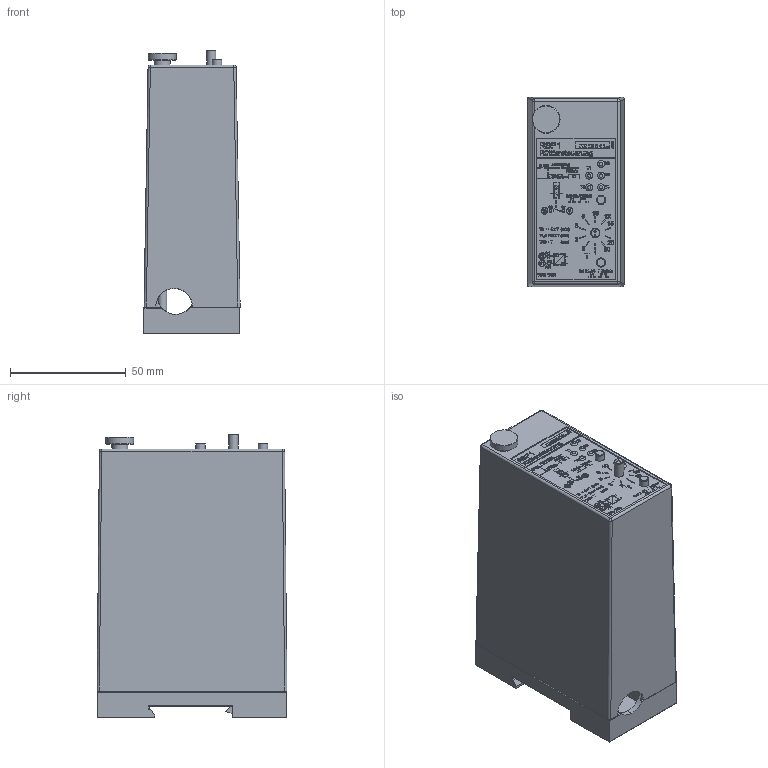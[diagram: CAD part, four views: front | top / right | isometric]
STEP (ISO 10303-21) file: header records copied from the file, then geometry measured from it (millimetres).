
FILE_DESCRIPTION (( 'STEP AP214' ), '1' );
FILE_NAME ('10220-1900-00_3D.STEP', '2015-01-30T09:35:49', ( '' ), ( '' ), 'SwSTEP 2.0', 'SolidWorks 2015', '' );
FILE_SCHEMA (( 'AUTOMOTIVE_DESIGN' ));
Length unit declared in the file: millimetre
Products named in the file (4): 10220-1900-00_3D; 1022 1202_3D; Kopie von 02920-1910-00_3D_Sockel^10220-1900-00_3D; Kopie von 02920-1909-00_3D_S12^10220-1900-00_3D
Assembly tree (3 placements, depth 2):
  10220-1900-00_3D
    Kopie von 02920-1909-00_3D_S12^10220-1900-00_3D
    Kopie von 02920-1910-00_3D_Sockel^10220-1900-00_3D
    1022 1202_3D
Bounding box: 41.55 x 82 x 122.64 mm (x, y, z)
Volume: 331213.7 mm3; surface area: 52736.9 mm2
Topology: 274 solids, 274 shells, 4334 faces, 10780 edges, 7055 vertices
Faces by surface type: plane 3414, bspline 508, cylinder 317, sphere 69, torus 17, cone 9
Full cylindrical faces by diameter (mm): 2 x6, 3 x12, 3.2 x1, 4 x16, 5 x3, 6.5 x1, 7 x1, 8 x1, 12 x1, 16 x1
Entity records: 145949 total; most frequent: CARTESIAN_POINT 38685, ORIENTED_EDGE 21384, DIRECTION 17598, EDGE_CURVE 10692, LINE 9056, VECTOR 9056, VERTEX_POINT 7046, EDGE_LOOP 4606
